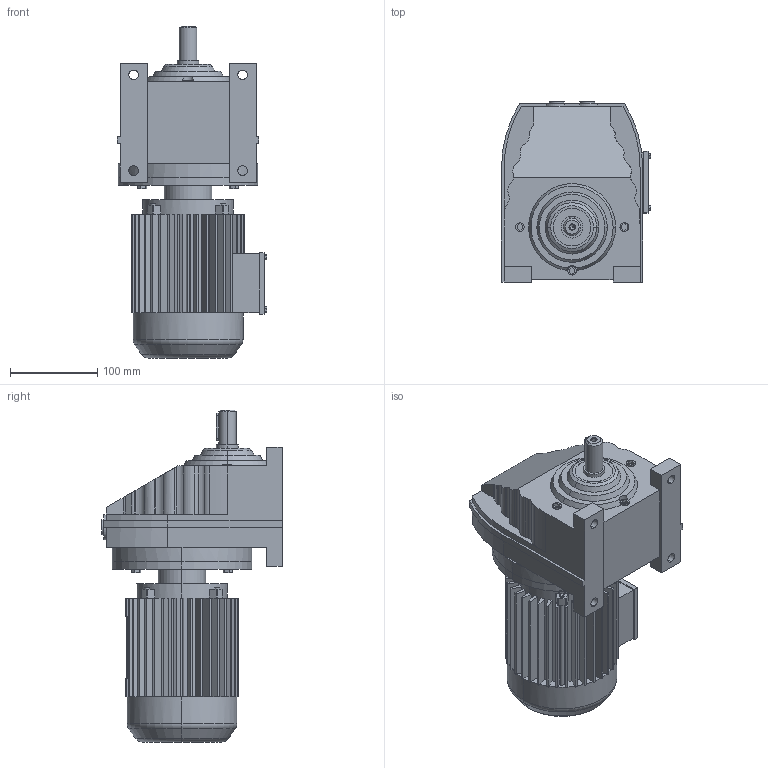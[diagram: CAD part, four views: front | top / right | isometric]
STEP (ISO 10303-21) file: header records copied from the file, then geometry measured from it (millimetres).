
FILE_DESCRIPTION(('Open CASCADE Model'),'2;1');
FILE_NAME('Open CASCADE Shape Model','2018-09-13T11:40:36',('Author'),( 'Open CASCADE'),'Open CASCADE STEP processor 6.3','Open CASCADE 6.3' ,'Unknown');
FILE_SCHEMA(('AUTOMOTIVE_DESIGN_CC2 { 1 2 10303 214 -1 1 5 4 }'));
Length unit declared in the file: millimetre
Products named in the file (3): 259_RX57-Y63S; RX57‵107_57.step; 萇儂_160_Y63S.step
Assembly tree (2 placements, depth 2):
  259_RX57-Y63S
    RX57‵107_57.step
    萇儂_160_Y63S.step
Bounding box: 171 x 207 x 381 mm (x, y, z)
Volume: 5232134 mm3; surface area: 382565.4 mm2
Topology: 2 solids, 2 shells, 633 faces, 1664 edges, 1073 vertices
Faces by surface type: plane 428, cylinder 184, cone 17, torus 4
Entity records: 42816 total; most frequent: CARTESIAN_POINT 11409, DIRECTION 5416, ORIENTED_EDGE 3324, PCURVE 3324, DEFINITIONAL_REPRESENTATION 3324, LINE 2854, VECTOR 2854, EDGE_CURVE 1662
